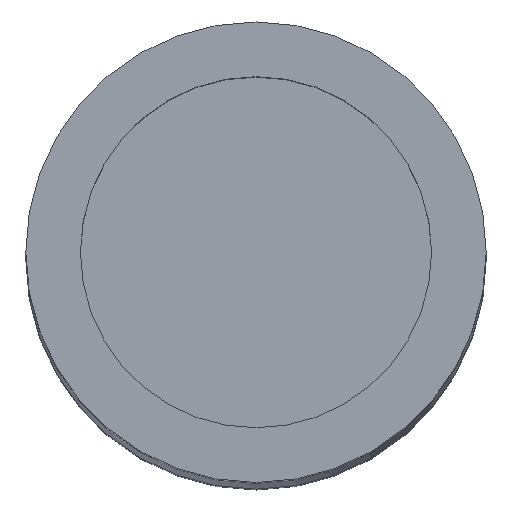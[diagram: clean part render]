
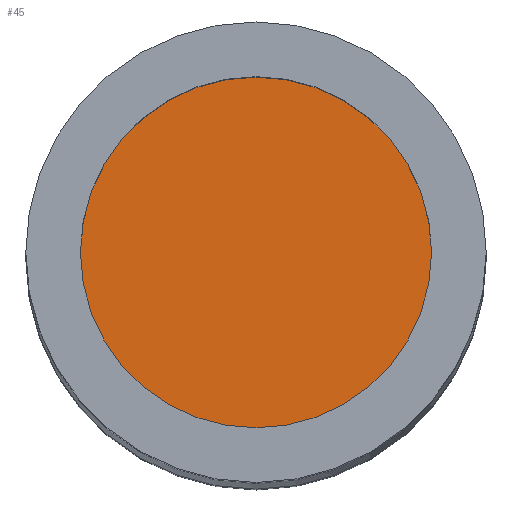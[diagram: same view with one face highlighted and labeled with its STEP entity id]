
A CAD part, top view. The second image highlights one B-rep face of the part: STEP entity #45.
In plain terms, the highlighted planar face has unit normal (0, 0, 1).
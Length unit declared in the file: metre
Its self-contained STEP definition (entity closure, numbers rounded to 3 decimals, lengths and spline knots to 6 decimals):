
#45 = ADVANCED_FACE( '', ( #93 ), #94, .T. );
#93 = FACE_OUTER_BOUND( '', #142, .T. );
#94 = PLANE( '', #143 );
#142 = EDGE_LOOP( '', ( #195 ) );
#143 = AXIS2_PLACEMENT_3D( '', #196, #197, #198 );
#195 = ORIENTED_EDGE( '', *, *, #236, .T. );
#196 = CARTESIAN_POINT( '', ( 0., 0., 0.066 ) );
#197 = DIRECTION( '', ( 0., 0., 1. ) );
#198 = DIRECTION( '', ( 1., 0., 0. ) );
#236 = EDGE_CURVE( '', #261, #261, #262, .T. );
#261 = VERTEX_POINT( '', #292 );
#262 = CIRCLE( '', #293, 0.0061 );
#292 = CARTESIAN_POINT( '', ( 0.0061, 0., 0.066 ) );
#293 = AXIS2_PLACEMENT_3D( '', #324, #325, #326 );
#324 = CARTESIAN_POINT( '', ( 0., 0., 0.066 ) );
#325 = DIRECTION( '', ( 0., 0., 1. ) );
#326 = DIRECTION( '', ( 1., 0., 0. ) );
